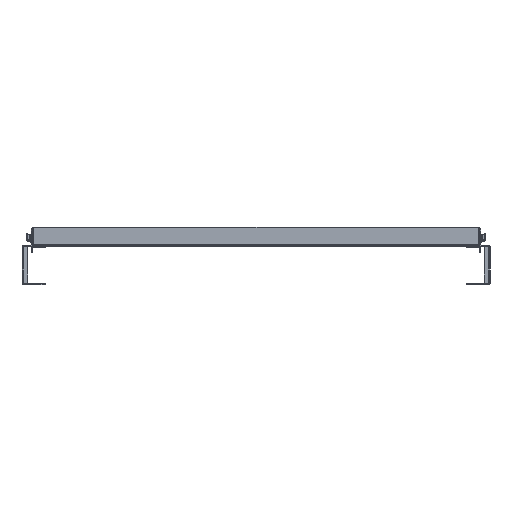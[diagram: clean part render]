
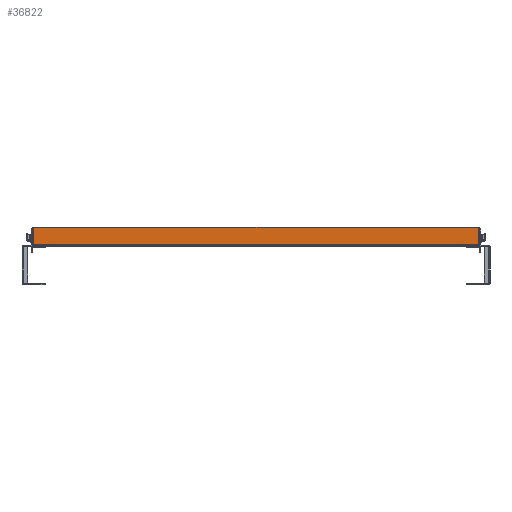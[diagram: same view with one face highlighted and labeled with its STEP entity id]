
A CAD part, front view. The second image highlights one B-rep face of the part: STEP entity #36822.
In plain terms, the highlighted planar face has unit normal (0, -1, 0) as drawn and (0, 1, 0) by its records, which use the part's own axes.
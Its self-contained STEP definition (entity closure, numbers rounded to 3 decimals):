
#615 = DIRECTION ( 'NONE',  ( -1., 0., 0. ) ) ;
#1797 = VECTOR ( 'NONE', #6352, 1000. ) ;
#3325 = ORIENTED_EDGE ( 'NONE', *, *, #27788, .T. ) ;
#3648 = VECTOR ( 'NONE', #27697, 1000. ) ;
#4275 = VERTEX_POINT ( 'NONE', #29588 ) ;
#5295 = CARTESIAN_POINT ( 'NONE',  ( -15.835, 1.5, 379. ) ) ;
#5477 = CARTESIAN_POINT ( 'NONE',  ( 13.835, 1.5, 377. ) ) ;
#5651 = VERTEX_POINT ( 'NONE', #38284 ) ;
#6352 = DIRECTION ( 'NONE',  ( 0., 0., -1. ) ) ;
#8342 = VERTEX_POINT ( 'NONE', #37799 ) ;
#8396 = EDGE_CURVE ( 'NONE', #8342, #31281, #53468, .T. ) ;
#8823 = VECTOR ( 'NONE', #615, 1000. ) ;
#9036 = CARTESIAN_POINT ( 'NONE',  ( -15.835, 1.5, 379. ) ) ;
#9208 = ORIENTED_EDGE ( 'NONE', *, *, #13050, .T. ) ;
#9563 = EDGE_CURVE ( 'NONE', #8342, #4275, #40221, .T. ) ;
#9860 = EDGE_CURVE ( 'NONE', #50272, #31281, #30642, .T. ) ;
#10768 = EDGE_CURVE ( 'NONE', #48134, #39398, #44704, .T. ) ;
#10821 = AXIS2_PLACEMENT_3D ( 'NONE', #5477, #22914, #43890 ) ;
#11553 = VECTOR ( 'NONE', #25569, 1000. ) ;
#12840 = EDGE_CURVE ( 'NONE', #4275, #39398, #17918, .T. ) ;
#13050 = EDGE_CURVE ( 'NONE', #5651, #48592, #16983, .T. ) ;
#13793 = CARTESIAN_POINT ( 'NONE',  ( -13.735, 1.5, 379. ) ) ;
#16283 = DIRECTION ( 'NONE',  ( 0., 1., 0. ) ) ;
#16679 = VECTOR ( 'NONE', #30968, 1000. ) ;
#16983 = LINE ( 'NONE', #41766, #20260 ) ;
#17918 = LINE ( 'NONE', #13793, #11553 ) ;
#20192 = CARTESIAN_POINT ( 'NONE',  ( 15.835, 1.5, 377. ) ) ;
#20260 = VECTOR ( 'NONE', #33052, 1000. ) ;
#20381 = ORIENTED_EDGE ( 'NONE', *, *, #20905, .T. ) ;
#20905 = EDGE_CURVE ( 'NONE', #50272, #22374, #45666, .T. ) ;
#21590 = DIRECTION ( 'NONE',  ( 0., -1., 0. ) ) ;
#21663 = DIRECTION ( 'NONE',  ( -1., 0., 0. ) ) ;
#22374 = VERTEX_POINT ( 'NONE', #20192 ) ;
#22899 = VECTOR ( 'NONE', #47684, 1000. ) ;
#22914 = DIRECTION ( 'NONE',  ( 0., 1., 0. ) ) ;
#25569 = DIRECTION ( 'NONE',  ( 0., 0., -1. ) ) ;
#25685 = CARTESIAN_POINT ( 'NONE',  ( -13.4, 1.5, -379. ) ) ;
#25812 = CARTESIAN_POINT ( 'NONE',  ( 13.4, 1.5, -379. ) ) ;
#26222 = FACE_OUTER_BOUND ( 'NONE', #40311, .T. ) ;
#26885 = CARTESIAN_POINT ( 'NONE',  ( -13.4, 1.5, 379. ) ) ;
#27517 = ORIENTED_EDGE ( 'NONE', *, *, #10768, .T. ) ;
#27697 = DIRECTION ( 'NONE',  ( -1., 0., 0. ) ) ;
#27788 = EDGE_CURVE ( 'NONE', #34361, #5651, #29754, .T. ) ;
#27790 = CARTESIAN_POINT ( 'NONE',  ( 15.835, 1.5, -377. ) ) ;
#27925 = ORIENTED_EDGE ( 'NONE', *, *, #12840, .F. ) ;
#28876 = AXIS2_PLACEMENT_3D ( 'NONE', #41357, #16283, #49506 ) ;
#29588 = CARTESIAN_POINT ( 'NONE',  ( -13.735, 1.5, 379. ) ) ;
#29754 = CIRCLE ( 'NONE', #28876, 2. ) ;
#30642 = LINE ( 'NONE', #5295, #50642 ) ;
#30968 = DIRECTION ( 'NONE',  ( 1., 0., 0. ) ) ;
#31281 = VERTEX_POINT ( 'NONE', #34174 ) ;
#31624 = CARTESIAN_POINT ( 'NONE',  ( -15.835, 1.5, -379. ) ) ;
#32776 = ORIENTED_EDGE ( 'NONE', *, *, #51384, .T. ) ;
#32944 = ORIENTED_EDGE ( 'NONE', *, *, #8396, .T. ) ;
#33052 = DIRECTION ( 'NONE',  ( -1., 0., 0. ) ) ;
#33063 = ORIENTED_EDGE ( 'NONE', *, *, #49110, .T. ) ;
#34174 = CARTESIAN_POINT ( 'NONE',  ( 13.4, 1.5, 379. ) ) ;
#34361 = VERTEX_POINT ( 'NONE', #27790 ) ;
#36822 = ADVANCED_FACE ( 'NONE', ( #26222 ), #42826, .F. ) ;
#37799 = CARTESIAN_POINT ( 'NONE',  ( -13.4, 1.5, 379. ) ) ;
#38184 = LINE ( 'NONE', #49634, #8823 ) ;
#38284 = CARTESIAN_POINT ( 'NONE',  ( 13.835, 1.5, -379. ) ) ;
#39398 = VERTEX_POINT ( 'NONE', #43066 ) ;
#40124 = LINE ( 'NONE', #47744, #1797 ) ;
#40221 = LINE ( 'NONE', #43775, #3648 ) ;
#40311 = EDGE_LOOP ( 'NONE', ( #49157, #20381, #33063, #3325, #9208, #32776, #27517, #27925, #53816, #32944 ) ) ;
#41357 = CARTESIAN_POINT ( 'NONE',  ( 13.835, 1.5, -377. ) ) ;
#41766 = CARTESIAN_POINT ( 'NONE',  ( -15.835, 1.5, -379. ) ) ;
#42826 = PLANE ( 'NONE',  #48161 ) ;
#43066 = CARTESIAN_POINT ( 'NONE',  ( -13.735, 1.5, -379. ) ) ;
#43775 = CARTESIAN_POINT ( 'NONE',  ( -15.835, 1.5, 379. ) ) ;
#43890 = DIRECTION ( 'NONE',  ( 1., 0., 0. ) ) ;
#44704 = LINE ( 'NONE', #31624, #22899 ) ;
#45666 = CIRCLE ( 'NONE', #10821, 2. ) ;
#46642 = DIRECTION ( 'NONE',  ( 1., 0., 0. ) ) ;
#46751 = CARTESIAN_POINT ( 'NONE',  ( 13.835, 1.5, 379. ) ) ;
#47684 = DIRECTION ( 'NONE',  ( -1., 0., 0. ) ) ;
#47744 = CARTESIAN_POINT ( 'NONE',  ( 15.835, 1.5, 379. ) ) ;
#48134 = VERTEX_POINT ( 'NONE', #25685 ) ;
#48161 = AXIS2_PLACEMENT_3D ( 'NONE', #9036, #21590, #46642 ) ;
#48592 = VERTEX_POINT ( 'NONE', #25812 ) ;
#49110 = EDGE_CURVE ( 'NONE', #22374, #34361, #40124, .T. ) ;
#49157 = ORIENTED_EDGE ( 'NONE', *, *, #9860, .F. ) ;
#49506 = DIRECTION ( 'NONE',  ( 1., 0., 0. ) ) ;
#49634 = CARTESIAN_POINT ( 'NONE',  ( 13.4, 1.5, -379. ) ) ;
#50272 = VERTEX_POINT ( 'NONE', #46751 ) ;
#50642 = VECTOR ( 'NONE', #21663, 1000. ) ;
#51384 = EDGE_CURVE ( 'NONE', #48592, #48134, #38184, .T. ) ;
#53468 = LINE ( 'NONE', #26885, #16679 ) ;
#53816 = ORIENTED_EDGE ( 'NONE', *, *, #9563, .F. ) ;
